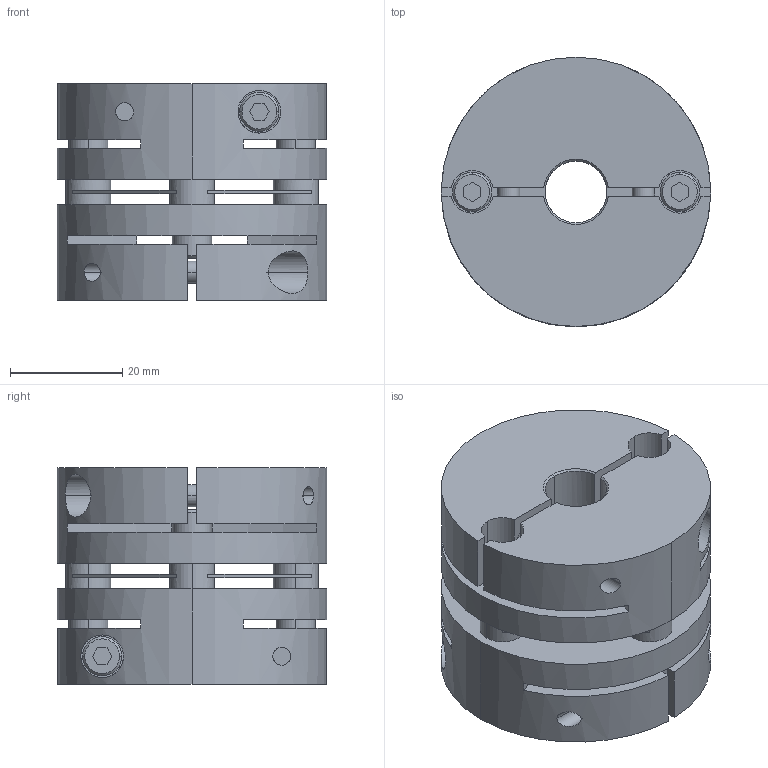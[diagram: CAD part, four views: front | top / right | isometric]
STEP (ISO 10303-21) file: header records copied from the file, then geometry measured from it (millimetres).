
FILE_DESCRIPTION((''),'2;1');
FILE_NAME('LAS-48C-11×22.stp','2015-10-14T15:43:25',(''),(''),'AutoCAD STEP 2000i','AutoCAD 2000i',', , ');
FILE_SCHEMA(('CONFIG_CONTROL_DESIGN'));
Length unit declared in the file: millimetre
Products named in the file (6): LAS-48C-12×19; 忣兜1; LA-4802-D19; LA-4802-D12-1; LA-4802-D12; LAS48-ITA
Assembly tree (5 placements, depth 2):
  LAS-48C-12×19
    忣兜1
    LA-4802-D19
    LA-4802-D12-1
    LA-4802-D12
    LAS48-ITA
Bounding box: 48 x 48 x 38.6 mm (x, y, z)
Volume: 48144.5 mm3; surface area: 22056.5 mm2
Topology: 1 solids, 1 shells, 224 faces, 600 edges, 392 vertices
Faces by surface type: plane 112, cylinder 84, cone 28
Entity records: 7841 total; most frequent: CARTESIAN_POINT 1878, DIRECTION 1256, ORIENTED_EDGE 1200, EDGE_CURVE 600, AXIS2_PLACEMENT_3D 458, VERTEX_POINT 392, VECTOR 340, LINE 340
